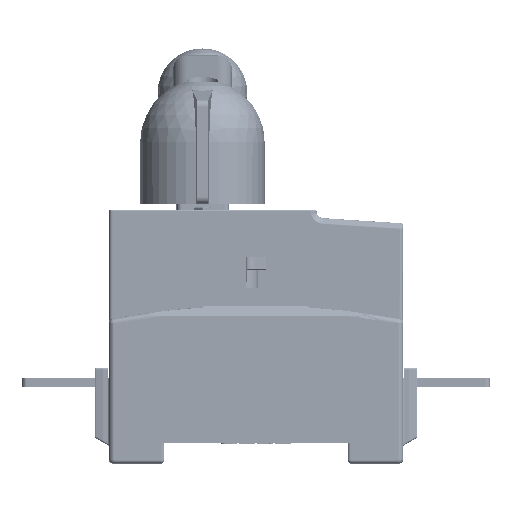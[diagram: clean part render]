
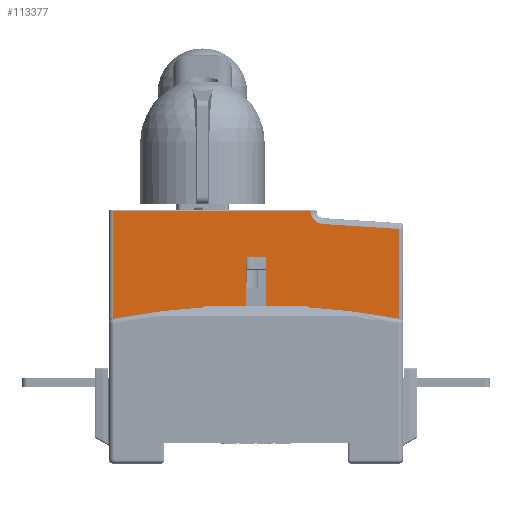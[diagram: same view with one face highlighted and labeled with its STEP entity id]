
A CAD part, left-side view. The second image highlights one B-rep face of the part: STEP entity #113377.
In plain terms, the highlighted planar face has unit normal (-1, 0, 0).
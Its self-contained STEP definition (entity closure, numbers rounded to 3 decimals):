
#107129=DIRECTION('',(0.,-1.,0.));
#107130=VECTOR('',#107129,57.293);
#107131=CARTESIAN_POINT('',(-30.,41.5,31.3));
#107132=LINE('',#107131,#107130);
#107428=DIRECTION('',(0.,0.,1.));
#107429=VECTOR('',#107428,31.3);
#107430=CARTESIAN_POINT('',(-30.,41.5,0.));
#107431=LINE('',#107430,#107429);
#107442=DIRECTION('',(0.,0.,1.));
#107443=VECTOR('',#107442,18.2);
#107444=CARTESIAN_POINT('',(-30.,3.,0.));
#107445=LINE('',#107444,#107443);
#107449=CARTESIAN_POINT('',(-30.,-19.5,31.3));
#107450=DIRECTION('',(1.,0.,0.));
#107451=DIRECTION('',(0.,0.065,-0.998));
#107452=AXIS2_PLACEMENT_3D('',#107449,#107450,#107451);
#107457=DIRECTION('',(0.,0.998,0.065));
#107458=VECTOR('',#107457,22.288);
#107459=CARTESIAN_POINT('',(-30.,-41.5,26.154));
#107460=LINE('',#107459,#107458);
#107471=DIRECTION('',(0.,0.,-1.));
#107472=VECTOR('',#107471,26.154);
#107473=CARTESIAN_POINT('',(-30.,-41.5,26.154));
#107474=LINE('',#107473,#107472);
#107481=CARTESIAN_POINT('',(-30.,-41.5,26.154));
#107486=DIRECTION('',(0.,1.,0.));
#107487=VECTOR('',#107486,38.5);
#107488=CARTESIAN_POINT('',(-30.,3.,0.));
#107489=LINE('',#107488,#107487);
#107493=DIRECTION('',(0.,1.,0.));
#107494=VECTOR('',#107493,38.5);
#107495=CARTESIAN_POINT('',(-30.,-41.5,0.));
#107496=LINE('',#107495,#107494);
#107567=DIRECTION('',(0.,1.,0.));
#107568=VECTOR('',#107567,6.);
#107569=CARTESIAN_POINT('',(-30.,-3.,18.2));
#107570=LINE('',#107569,#107568);
#107602=DIRECTION('',(0.,0.,1.));
#107603=VECTOR('',#107602,18.2);
#107604=CARTESIAN_POINT('',(-30.,-3.,0.));
#107605=LINE('',#107604,#107603);
#112016=CARTESIAN_POINT('',(-30.,3.,0.));
#112018=VERTEX_POINT('',#112016);
#112264=CARTESIAN_POINT('',(-30.,3.,18.2));
#112265=VERTEX_POINT('',#112264);
#112298=CARTESIAN_POINT('',(-30.,-3.,18.2));
#112299=VERTEX_POINT('',#112298);
#112417=CARTESIAN_POINT('',(-30.,41.5,31.3));
#112418=VERTEX_POINT('',#112417);
#112474=CARTESIAN_POINT('',(-30.,-3.,0.));
#112475=VERTEX_POINT('',#112474);
#112481=VERTEX_POINT('',#107481);
#112492=CARTESIAN_POINT('',(-30.,41.5,0.));
#112493=VERTEX_POINT('',#112492);
#112704=CARTESIAN_POINT('',(-30.,-15.793,31.3));
#112705=VERTEX_POINT('',#112704);
#112745=CARTESIAN_POINT('',(-30.,-19.259,27.601));
#112746=VERTEX_POINT('',#112745);
#112797=CARTESIAN_POINT('',(-30.,-41.5,0.));
#112798=VERTEX_POINT('',#112797);
#113354=CARTESIAN_POINT('',(-30.,-42.5,31.8));
#113355=DIRECTION('',(1.,0.,0.));
#113356=DIRECTION('',(0.,0.,-1.));
#113357=AXIS2_PLACEMENT_3D('',#113354,#113355,#113356);
#113358=PLANE('',#113357);
#113360=ORIENTED_EDGE('',*,*,#113359,.T.);
#113362=ORIENTED_EDGE('',*,*,#113361,.T.);
#113364=ORIENTED_EDGE('',*,*,#113363,.T.);
#113366=ORIENTED_EDGE('',*,*,#113365,.T.);
#113368=ORIENTED_EDGE('',*,*,#113367,.F.);
#113370=ORIENTED_EDGE('',*,*,#113369,.T.);
#113371=ORIENTED_EDGE('',*,*,#113344,.T.);
#113372=ORIENTED_EDGE('',*,*,#112955,.T.);
#113373=ORIENTED_EDGE('',*,*,#112983,.F.);
#113374=ORIENTED_EDGE('',*,*,#112998,.F.);
#113375=EDGE_LOOP('',(#113360,#113362,#113364,#113366,#113368,#113370,#113371,
#113372,#113373,#113374));
#113376=FACE_OUTER_BOUND('',#113375,.F.);
#107453=CIRCLE('',#107452,3.707);
#112955=EDGE_CURVE('',#112418,#112705,#107132,.T.);
#112983=EDGE_CURVE('',#112746,#112705,#107453,.T.);
#112998=EDGE_CURVE('',#112481,#112746,#107460,.T.);
#113344=EDGE_CURVE('',#112493,#112418,#107431,.T.);
#113359=EDGE_CURVE('',#112481,#112798,#107474,.T.);
#113361=EDGE_CURVE('',#112798,#112475,#107496,.T.);
#113363=EDGE_CURVE('',#112475,#112299,#107605,.T.);
#113365=EDGE_CURVE('',#112299,#112265,#107570,.T.);
#113367=EDGE_CURVE('',#112018,#112265,#107445,.T.);
#113369=EDGE_CURVE('',#112018,#112493,#107489,.T.);
#113377=ADVANCED_FACE('',(#113376),#113358,.F.);
